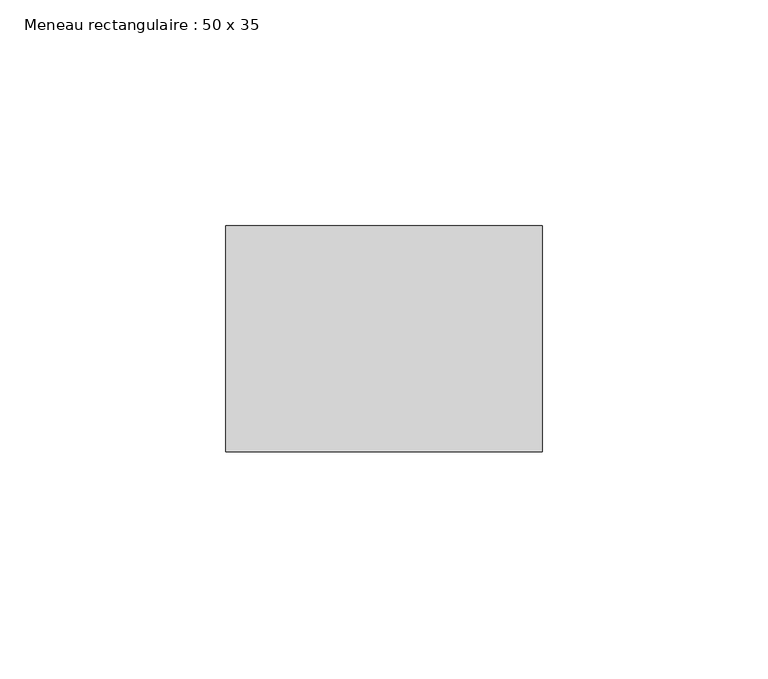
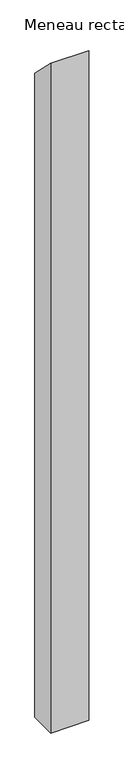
"""IFC4 building model written with IfcOpenShell, lengths in millimetres: member geometry, Meneau rectangulaire : 50 x 35."""

import ifcopenshell
import ifcopenshell.guid

model = None  # the IFC model being written
_history = None  # IfcOwnerHistory: only IFC2X3 demands one
_inside = {}  # id of a spatial element -> (the spatial element, [elements in it])
_under = {}  # id of a project, library or spatial element -> (it, [spatial elements below it])
_declared = {}  # id of a project -> (the project, [libraries it declares])
_typed = {}  # id of a type object -> (the type object, [elements of that type])
_made_of = {}  # id of a material, layer set ... -> (it, [elements and type objects made of it])


def new_model(schema):
    """Start an empty IFC model of exactly this schema.

    Asked for "IFC4X3", IfcOpenShell would pick the latest addendum, in which some entities
    have other attributes; the version numbers below select the first issue.
    IFC2X3 requires an IfcOwnerHistory on every rooted entity: one is made here for all.
    """
    global model, _history
    if schema == "IFC4X3":
        model = ifcopenshell.file(schema_version=(4, 3, 0, 0))
    else:
        model = ifcopenshell.file(schema=schema)
    _inside.clear()
    _under.clear()
    _declared.clear()
    _typed.clear()
    _made_of.clear()
    _history = None
    if model.schema == "IFC2X3":
        org = make("IfcOrganization", Name="unknown")
        user = make(
            "IfcPersonAndOrganization",
            ThePerson=make("IfcPerson", FamilyName="unknown"),
            TheOrganization=org,
        )
        app = make(
            "IfcApplication",
            ApplicationDeveloper=org,
            Version="unknown",
            ApplicationFullName="unknown",
            ApplicationIdentifier="unknown",
        )
        _history = make(
            "IfcOwnerHistory",
            OwningUser=user,
            OwningApplication=app,
            ChangeAction="ADDED",
            CreationDate=0,
        )
    return model


def make(cls, **values):
    """One entity of the class cls with the attributes given. An attribute that is None is left unset."""
    return model.create_entity(
        cls, **{name: value for name, value in values.items() if value is not None}
    )


def rooted(cls, **values):
    """An entity with a GlobalId (a new one), such as an element, a storey or a relation."""
    return make(cls, GlobalId=ifcopenshell.guid.new(), OwnerHistory=_history, **values)


def si_unit(unit_type, name, prefix=None):
    """IfcSIUnit, for example si_unit("LENGTHUNIT", "METRE", prefix="MILLI")."""
    return make("IfcSIUnit", UnitType=unit_type, Prefix=prefix, Name=name)


def assignment(units):
    """IfcUnitAssignment: the units of a project."""
    return None if units is None else make("IfcUnitAssignment", Units=units)


def point(xyz):
    """IfcCartesianPoint."""
    return None if xyz is None else make("IfcCartesianPoint", Coordinates=xyz)


def direction(xyz):
    """IfcDirection."""
    return None if xyz is None else make("IfcDirection", DirectionRatios=xyz)


def frame(location, z_axis=None, x_axis=None):
    """IfcAxis2Placement3D, a coordinate frame: its origin and axes. An axis left out is left unset."""
    return make(
        "IfcAxis2Placement3D",
        Location=point(location),
        Axis=direction(z_axis),
        RefDirection=direction(x_axis),
    )


def origin():
    """The frame at (0, 0, 0) with its axes left unset."""
    return frame((0.0, 0.0, 0.0))


def place(relative_to, where):
    """IfcLocalPlacement: puts the frame where relative to a parent placement (None: the world)."""
    return make(
        "IfcLocalPlacement", PlacementRelTo=relative_to, RelativePlacement=where
    )


def context(
    kind, dimensions, precision=None, world=None, true_north=None, identifier=None
):
    """IfcGeometricRepresentationContext, for example the 3D "Model" context."""
    return make(
        "IfcGeometricRepresentationContext",
        ContextIdentifier=identifier,
        ContextType=kind,
        CoordinateSpaceDimension=dimensions,
        Precision=precision,
        WorldCoordinateSystem=world,
        TrueNorth=true_north,
    )


def project(units=None, contexts=None):
    """IfcProject with its units and contexts."""
    return rooted(
        "IfcProject",
        Name="project",
        RepresentationContexts=contexts,
        UnitsInContext=assignment(units),
    )


def spatial(cls, under=None, at=None, **own):
    """A site, building, storey or space (cls), placed at a placement, below another one or the project."""
    s = rooted(cls, ObjectPlacement=at, **own)
    if under is not None:
        _under.setdefault(under.id(), (under, []))[1].append(s)
    return s


def polyline(points):
    """IfcPolyline through the points."""
    return make("IfcPolyline", Points=[point(p) for p in points])


def outline(outer, holes=None, kind="AREA"):
    """IfcArbitraryClosedProfileDef: a profile drawn as a closed curve; with holes, ...WithVoids."""
    if holes is None:
        return make("IfcArbitraryClosedProfileDef", ProfileType=kind, OuterCurve=outer)
    return make(
        "IfcArbitraryProfileDefWithVoids",
        ProfileType=kind,
        OuterCurve=outer,
        InnerCurves=holes,
    )


def extrude(swept, where, along, depth):
    """IfcExtrudedAreaSolid: the profile swept, set in the frame where, extruded along a direction by depth."""
    return make(
        "IfcExtrudedAreaSolid",
        SweptArea=swept,
        Position=where,
        ExtrudedDirection=direction(along),
        Depth=depth,
    )


def shape(context_of_items, identifier, shape_type, items):
    """IfcShapeRepresentation: the items that make up one representation, for example the "Body"."""
    return make(
        "IfcShapeRepresentation",
        ContextOfItems=context_of_items,
        RepresentationIdentifier=identifier,
        RepresentationType=shape_type,
        Items=items,
    )


def source(mapping_origin, context_of_items, identifier, shape_type, items):
    """IfcRepresentationMap: a shape defined once, which mapped items show again and again."""
    return make(
        "IfcRepresentationMap",
        MappingOrigin=mapping_origin,
        MappedRepresentation=shape(context_of_items, identifier, shape_type, items),
    )


def transform(
    local_origin,
    x_axis=None,
    y_axis=None,
    z_axis=None,
    scale=None,
    scale2=None,
    scale3=None,
    uniform=True,
):
    """IfcCartesianTransformationOperator3D, or its non-uniform kind. x_axis, y_axis, z_axis: its Axis1, 2, 3."""
    if uniform:
        return make(
            "IfcCartesianTransformationOperator3D",
            Axis1=direction(x_axis),
            Axis2=direction(y_axis),
            LocalOrigin=point(local_origin),
            Scale=scale,
            Axis3=direction(z_axis),
        )
    return make(
        "IfcCartesianTransformationOperator3DnonUniform",
        Axis1=direction(x_axis),
        Axis2=direction(y_axis),
        LocalOrigin=point(local_origin),
        Scale=scale,
        Axis3=direction(z_axis),
        Scale2=scale2,
        Scale3=scale3,
    )


def mapped(mapping_source, mapping_target):
    """IfcMappedItem: shows the shape of a source again, moved by a transform."""
    return make(
        "IfcMappedItem", MappingSource=mapping_source, MappingTarget=mapping_target
    )


def made_of(thing, what):
    """Note that an element or type object is made of a material, layer set ...; save() writes the relation."""
    if what is not None:
        _made_of.setdefault(what.id(), (what, []))[1].append(thing)
    return thing


def element(
    cls,
    number,
    at=None,
    inside=None,
    cuts=None,
    type_object=None,
    material=None,
    context=None,
    identifier="Body",
    shape_type=None,
    held_by="IfcProductDefinitionShape",
    body=None,
    shapes=None,
    **own,
):
    """One element of the class cls, such as IfcWall. Its Tag is "e" and its number.

    at: its placement. inside: the storey or other place that contains it. cuts: it is an
    opening in that element (IfcRelVoidsElement). A single representation is given by context,
    identifier, shape_type and body (its items); several are given by shapes. held_by: the class
    of the entity that holds the representations. save() writes the other relations.
    """
    e = rooted(cls, Tag="e%d" % number, ObjectPlacement=at, **own)
    if body is not None:
        shapes = [shape(context, identifier, shape_type, body)]
    if shapes is not None:
        e.Representation = make(held_by, Representations=shapes)
    if inside is not None:
        _inside.setdefault(inside.id(), (inside, []))[1].append(e)
    if cuts is not None:
        rooted(
            "IfcRelVoidsElement", RelatingBuildingElement=cuts, RelatedOpeningElement=e
        )
    if type_object is not None:
        _typed.setdefault(type_object.id(), (type_object, []))[1].append(e)
    return made_of(e, material)


def aggregate(whole, parts):
    """IfcRelAggregates: a whole, such as a stair, and the parts it consists of."""
    return rooted("IfcRelAggregates", RelatingObject=whole, RelatedObjects=parts)


def save(model, path):
    """Write the relations noted so far, then the file.

    IfcRelAggregates (storeys below a building ...), IfcRelContainedInSpatialStructure (elements
    in a storey), IfcRelDefinesByType, IfcRelAssociatesMaterial and IfcRelDeclares: one each for
    every whole, place, type object, material and project.
    """
    for whole, parts in _under.values():
        aggregate(whole, parts)
    for where, things in _inside.values():
        rooted(
            "IfcRelContainedInSpatialStructure",
            RelatedElements=things,
            RelatingStructure=where,
        )
    for kind, things in _typed.values():
        rooted("IfcRelDefinesByType", RelatedObjects=things, RelatingType=kind)
    for what, things in _made_of.values():
        rooted("IfcRelAssociatesMaterial", RelatedObjects=things, RelatingMaterial=what)
    for by, libraries in _declared.values():
        rooted("IfcRelDeclares", RelatingContext=by, RelatedDefinitions=libraries)
    model.write(path)


def meneau_rectangulaire_50_x_35_b647cd4f(model_context):
    return source(origin(), model_context, "Body", "SweptSolid", [
        extrude(outline(polyline([(-50.0, 50.0), (0.0, 0.0), (0.0, -1245.6798872), (-50.0, -1245.6798872), (-50.0, 50.0)])), frame((-70.0, 0.0, 0.0), z_axis=(1.0, 0.0, 0.0), x_axis=(0.0, 1.0, 0.0)), (0.0, 0.0, 1.0), 70.0),
    ])


if __name__ == "__main__":
    model = new_model("IFC4")
    model_context = context("Model", 3, world=origin())
    ifc_project = project(units=[si_unit("LENGTHUNIT", "METRE", prefix="MILLI")], contexts=[model_context])
    site = spatial("IfcSite", under=ifc_project)
    building = spatial("IfcBuilding", under=site)
    placement = place(None, origin())
    meneau_rectangulaire_50_x_35_shape = meneau_rectangulaire_50_x_35_b647cd4f(model_context)
    element("IfcMember", 1, ObjectType="Meneau rectangulaire : 50 x 35", at=placement, inside=building, context=model_context, shape_type="MappedRepresentation", body=[
        mapped(meneau_rectangulaire_50_x_35_shape, transform((0.0, 0.0, 0.0), x_axis=(1.0, 0.0, 0.0), y_axis=(0.0, 1.0, 0.0), z_axis=(0.0, 0.0, 1.0))),
    ])
    save(model, "model.ifc")
